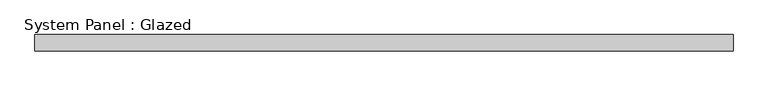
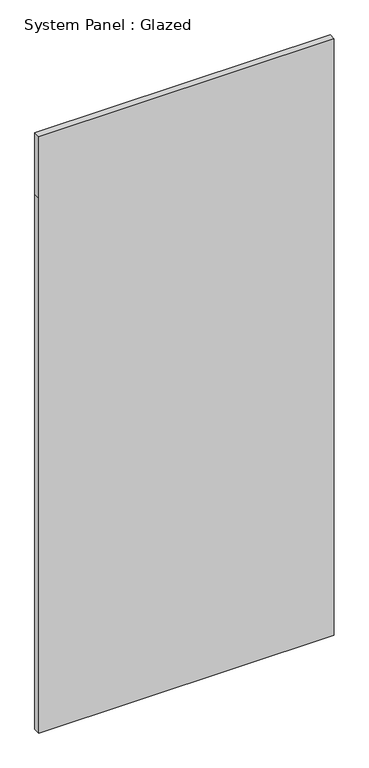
"""IFC4 building model written with IfcOpenShell, lengths in millimetres: plate geometry, System Panel : Glazed."""

import ifcopenshell
import ifcopenshell.guid

model = None  # the IFC model being written
_history = None  # IfcOwnerHistory: only IFC2X3 demands one
_inside = {}  # id of a spatial element -> (the spatial element, [elements in it])
_under = {}  # id of a project, library or spatial element -> (it, [spatial elements below it])
_declared = {}  # id of a project -> (the project, [libraries it declares])
_typed = {}  # id of a type object -> (the type object, [elements of that type])
_made_of = {}  # id of a material, layer set ... -> (it, [elements and type objects made of it])


def new_model(schema):
    """Start an empty IFC model of exactly this schema.

    Asked for "IFC4X3", IfcOpenShell would pick the latest addendum, in which some entities
    have other attributes; the version numbers below select the first issue.
    IFC2X3 requires an IfcOwnerHistory on every rooted entity: one is made here for all.
    """
    global model, _history
    if schema == "IFC4X3":
        model = ifcopenshell.file(schema_version=(4, 3, 0, 0))
    else:
        model = ifcopenshell.file(schema=schema)
    _inside.clear()
    _under.clear()
    _declared.clear()
    _typed.clear()
    _made_of.clear()
    _history = None
    if model.schema == "IFC2X3":
        org = make("IfcOrganization", Name="unknown")
        user = make(
            "IfcPersonAndOrganization",
            ThePerson=make("IfcPerson", FamilyName="unknown"),
            TheOrganization=org,
        )
        app = make(
            "IfcApplication",
            ApplicationDeveloper=org,
            Version="unknown",
            ApplicationFullName="unknown",
            ApplicationIdentifier="unknown",
        )
        _history = make(
            "IfcOwnerHistory",
            OwningUser=user,
            OwningApplication=app,
            ChangeAction="ADDED",
            CreationDate=0,
        )
    return model


def make(cls, **values):
    """One entity of the class cls with the attributes given. An attribute that is None is left unset."""
    return model.create_entity(
        cls, **{name: value for name, value in values.items() if value is not None}
    )


def rooted(cls, **values):
    """An entity with a GlobalId (a new one), such as an element, a storey or a relation."""
    return make(cls, GlobalId=ifcopenshell.guid.new(), OwnerHistory=_history, **values)


def si_unit(unit_type, name, prefix=None):
    """IfcSIUnit, for example si_unit("LENGTHUNIT", "METRE", prefix="MILLI")."""
    return make("IfcSIUnit", UnitType=unit_type, Prefix=prefix, Name=name)


def assignment(units):
    """IfcUnitAssignment: the units of a project."""
    return None if units is None else make("IfcUnitAssignment", Units=units)


def point(xyz):
    """IfcCartesianPoint."""
    return None if xyz is None else make("IfcCartesianPoint", Coordinates=xyz)


def direction(xyz):
    """IfcDirection."""
    return None if xyz is None else make("IfcDirection", DirectionRatios=xyz)


def frame(location, z_axis=None, x_axis=None):
    """IfcAxis2Placement3D, a coordinate frame: its origin and axes. An axis left out is left unset."""
    return make(
        "IfcAxis2Placement3D",
        Location=point(location),
        Axis=direction(z_axis),
        RefDirection=direction(x_axis),
    )


def origin():
    """The frame at (0, 0, 0) with its axes left unset."""
    return frame((0.0, 0.0, 0.0))


def place(relative_to, where):
    """IfcLocalPlacement: puts the frame where relative to a parent placement (None: the world)."""
    return make(
        "IfcLocalPlacement", PlacementRelTo=relative_to, RelativePlacement=where
    )


def context(
    kind, dimensions, precision=None, world=None, true_north=None, identifier=None
):
    """IfcGeometricRepresentationContext, for example the 3D "Model" context."""
    return make(
        "IfcGeometricRepresentationContext",
        ContextIdentifier=identifier,
        ContextType=kind,
        CoordinateSpaceDimension=dimensions,
        Precision=precision,
        WorldCoordinateSystem=world,
        TrueNorth=true_north,
    )


def project(units=None, contexts=None):
    """IfcProject with its units and contexts."""
    return rooted(
        "IfcProject",
        Name="project",
        RepresentationContexts=contexts,
        UnitsInContext=assignment(units),
    )


def spatial(cls, under=None, at=None, **own):
    """A site, building, storey or space (cls), placed at a placement, below another one or the project."""
    s = rooted(cls, ObjectPlacement=at, **own)
    if under is not None:
        _under.setdefault(under.id(), (under, []))[1].append(s)
    return s


def polyline(points):
    """IfcPolyline through the points."""
    return make("IfcPolyline", Points=[point(p) for p in points])


def outline(outer, holes=None, kind="AREA"):
    """IfcArbitraryClosedProfileDef: a profile drawn as a closed curve; with holes, ...WithVoids."""
    if holes is None:
        return make("IfcArbitraryClosedProfileDef", ProfileType=kind, OuterCurve=outer)
    return make(
        "IfcArbitraryProfileDefWithVoids",
        ProfileType=kind,
        OuterCurve=outer,
        InnerCurves=holes,
    )


def extrude(swept, where, along, depth):
    """IfcExtrudedAreaSolid: the profile swept, set in the frame where, extruded along a direction by depth."""
    return make(
        "IfcExtrudedAreaSolid",
        SweptArea=swept,
        Position=where,
        ExtrudedDirection=direction(along),
        Depth=depth,
    )


def shape(context_of_items, identifier, shape_type, items):
    """IfcShapeRepresentation: the items that make up one representation, for example the "Body"."""
    return make(
        "IfcShapeRepresentation",
        ContextOfItems=context_of_items,
        RepresentationIdentifier=identifier,
        RepresentationType=shape_type,
        Items=items,
    )


def source(mapping_origin, context_of_items, identifier, shape_type, items):
    """IfcRepresentationMap: a shape defined once, which mapped items show again and again."""
    return make(
        "IfcRepresentationMap",
        MappingOrigin=mapping_origin,
        MappedRepresentation=shape(context_of_items, identifier, shape_type, items),
    )


def transform(
    local_origin,
    x_axis=None,
    y_axis=None,
    z_axis=None,
    scale=None,
    scale2=None,
    scale3=None,
    uniform=True,
):
    """IfcCartesianTransformationOperator3D, or its non-uniform kind. x_axis, y_axis, z_axis: its Axis1, 2, 3."""
    if uniform:
        return make(
            "IfcCartesianTransformationOperator3D",
            Axis1=direction(x_axis),
            Axis2=direction(y_axis),
            LocalOrigin=point(local_origin),
            Scale=scale,
            Axis3=direction(z_axis),
        )
    return make(
        "IfcCartesianTransformationOperator3DnonUniform",
        Axis1=direction(x_axis),
        Axis2=direction(y_axis),
        LocalOrigin=point(local_origin),
        Scale=scale,
        Axis3=direction(z_axis),
        Scale2=scale2,
        Scale3=scale3,
    )


def mapped(mapping_source, mapping_target):
    """IfcMappedItem: shows the shape of a source again, moved by a transform."""
    return make(
        "IfcMappedItem", MappingSource=mapping_source, MappingTarget=mapping_target
    )


def made_of(thing, what):
    """Note that an element or type object is made of a material, layer set ...; save() writes the relation."""
    if what is not None:
        _made_of.setdefault(what.id(), (what, []))[1].append(thing)
    return thing


def element(
    cls,
    number,
    at=None,
    inside=None,
    cuts=None,
    type_object=None,
    material=None,
    context=None,
    identifier="Body",
    shape_type=None,
    held_by="IfcProductDefinitionShape",
    body=None,
    shapes=None,
    **own,
):
    """One element of the class cls, such as IfcWall. Its Tag is "e" and its number.

    at: its placement. inside: the storey or other place that contains it. cuts: it is an
    opening in that element (IfcRelVoidsElement). A single representation is given by context,
    identifier, shape_type and body (its items); several are given by shapes. held_by: the class
    of the entity that holds the representations. save() writes the other relations.
    """
    e = rooted(cls, Tag="e%d" % number, ObjectPlacement=at, **own)
    if body is not None:
        shapes = [shape(context, identifier, shape_type, body)]
    if shapes is not None:
        e.Representation = make(held_by, Representations=shapes)
    if inside is not None:
        _inside.setdefault(inside.id(), (inside, []))[1].append(e)
    if cuts is not None:
        rooted(
            "IfcRelVoidsElement", RelatingBuildingElement=cuts, RelatedOpeningElement=e
        )
    if type_object is not None:
        _typed.setdefault(type_object.id(), (type_object, []))[1].append(e)
    return made_of(e, material)


def aggregate(whole, parts):
    """IfcRelAggregates: a whole, such as a stair, and the parts it consists of."""
    return rooted("IfcRelAggregates", RelatingObject=whole, RelatedObjects=parts)


def save(model, path):
    """Write the relations noted so far, then the file.

    IfcRelAggregates (storeys below a building ...), IfcRelContainedInSpatialStructure (elements
    in a storey), IfcRelDefinesByType, IfcRelAssociatesMaterial and IfcRelDeclares: one each for
    every whole, place, type object, material and project.
    """
    for whole, parts in _under.values():
        aggregate(whole, parts)
    for where, things in _inside.values():
        rooted(
            "IfcRelContainedInSpatialStructure",
            RelatedElements=things,
            RelatingStructure=where,
        )
    for kind, things in _typed.values():
        rooted("IfcRelDefinesByType", RelatedObjects=things, RelatingType=kind)
    for what, things in _made_of.values():
        rooted("IfcRelAssociatesMaterial", RelatedObjects=things, RelatingMaterial=what)
    for by, libraries in _declared.values():
        rooted("IfcRelDeclares", RelatingContext=by, RelatedDefinitions=libraries)
    model.write(path)


def system_panel_glazed_1fc46e14(model_context):
    return source(origin(), model_context, "Body", "SweptSolid", [
        extrude(outline(polyline([(0.0, -549.275), (0.0, 549.275), (2101.85, 549.275), (2343.15, 549.275), (2343.15, -549.275), (2101.85, -549.275), (0.0, -549.275)])), frame((0.0, 19.05, 0.0), z_axis=(0.0, 1.0, 0.0), x_axis=(0.0, 0.0, 1.0)), (0.0, 0.0, 1.0), 25.4),
    ])


if __name__ == "__main__":
    model = new_model("IFC4")
    model_context = context("Model", 3, world=origin())
    ifc_project = project(units=[si_unit("LENGTHUNIT", "METRE", prefix="MILLI")], contexts=[model_context])
    site = spatial("IfcSite", under=ifc_project)
    building = spatial("IfcBuilding", under=site)
    placement = place(None, origin())
    system_panel_glazed_shape = system_panel_glazed_1fc46e14(model_context)
    element("IfcPlate", 1, ObjectType="System Panel : Glazed", at=placement, inside=building, context=model_context, shape_type="MappedRepresentation", body=[
        mapped(system_panel_glazed_shape, transform((0.0, 0.0, 0.0), x_axis=(1.0, 0.0, 0.0), y_axis=(0.0, 1.0, 0.0), z_axis=(0.0, 0.0, 1.0))),
    ])
    save(model, "model.ifc")
